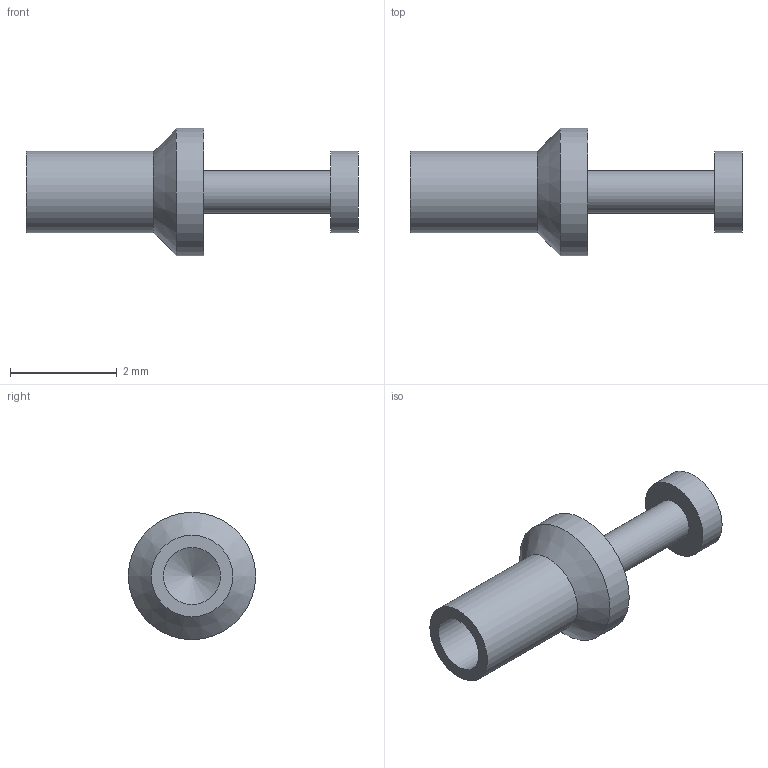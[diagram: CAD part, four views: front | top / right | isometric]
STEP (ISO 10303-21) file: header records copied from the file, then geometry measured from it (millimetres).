
FILE_DESCRIPTION(/* description */ (''),/* implementation_level */ '2;1');
FILE_NAME(/* name */ 'Z:\STEP folder\180-7336-02.ipt.stp',/* time_stamp */ '2016-12-07T16:17:45+00:00',/* author */ ('Paul Karlsons'),/* organization */ (''),/* preprocessor_version */ 'ST-DEVELOPER v15.2',/* originating_system */ 'Autodesk Inventor 2014',/* authorisation */ '');
FILE_SCHEMA (('AUTOMOTIVE_DESIGN { 1 0 10303 214 3 1 1 }'));
Length unit declared in the file: millimetre
Products named in the file (1): 180-7336-02
Bounding box: 6.22 x 2.39 x 2.39 mm (x, y, z)
Volume: 9 mm3; surface area: 39.9 mm2
Topology: 1 solids, 1 shells, 11 faces, 18 edges, 11 vertices
Faces by surface type: cylinder 5, plane 4, cone 2
Full cylindrical faces by diameter (mm): 0.787 x1, 1.067 x1, 1.524 x2, 2.388 x1
Entity records: 235 total; most frequent: DIRECTION 44, CARTESIAN_POINT 32, AXIS2_PLACEMENT_3D 22, EDGE_LOOP 20, ORIENTED_EDGE 20, FACE_BOUND 11, ADVANCED_FACE 11, CIRCLE 10
